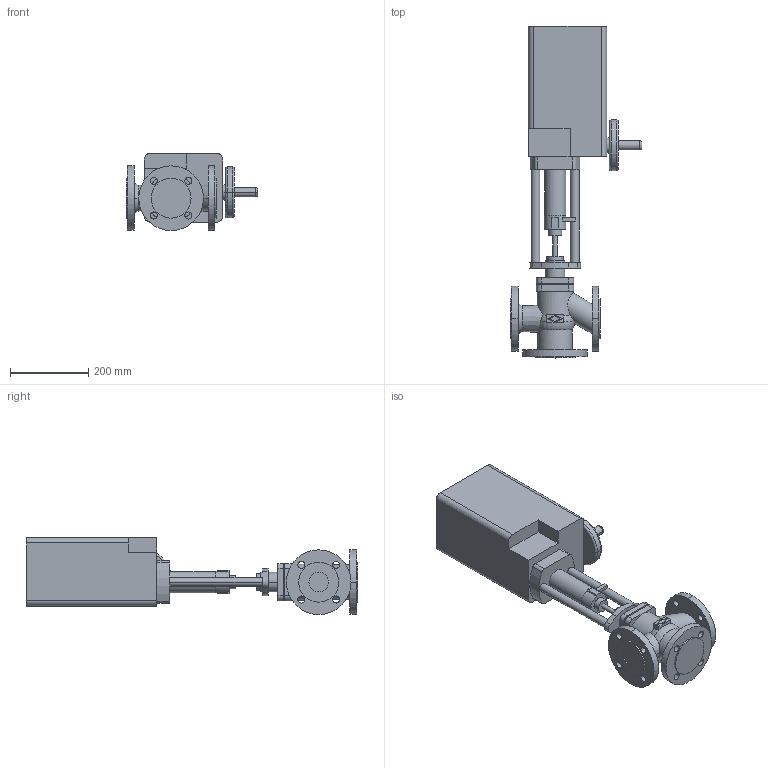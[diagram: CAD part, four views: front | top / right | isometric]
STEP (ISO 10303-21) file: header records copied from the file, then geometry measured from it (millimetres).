
FILE_DESCRIPTION(('OneSpaceDesigner STEP Export'),'2;1');
FILE_NAME('c000002410.stp','2006-09-19T12:04:53',(''),(''),'OneSpace Designer STEP processor for AP214 (Solid Model)','OneSpace Designer 13.20A 18-Aug-2005 (C) CoCreate Software GmbH','');
FILE_SCHEMA(('AUTOMOTIVE_DESIGN { 1 0 10303 214 1 1 1 1 }'));
Length unit declared in the file: millimetre
Products named in the file (2): 1; 2
Bounding box: 336.6 x 847 x 196.5 mm (x, y, z)
Volume: 15636876.8 mm3; surface area: 693323.1 mm2
Topology: 2 solids, 2 shells, 200 faces, 493 edges, 326 vertices
Faces by surface type: cylinder 94, plane 90, torus 12, cone 4
Entity records: 5651 total; most frequent: CARTESIAN_POINT 1156, ORIENTED_EDGE 986, DIRECTION 839, EDGE_CURVE 493, VERTEX_POINT 326, AXIS2_PLACEMENT_3D 297, EDGE_LOOP 253, VECTOR 245
